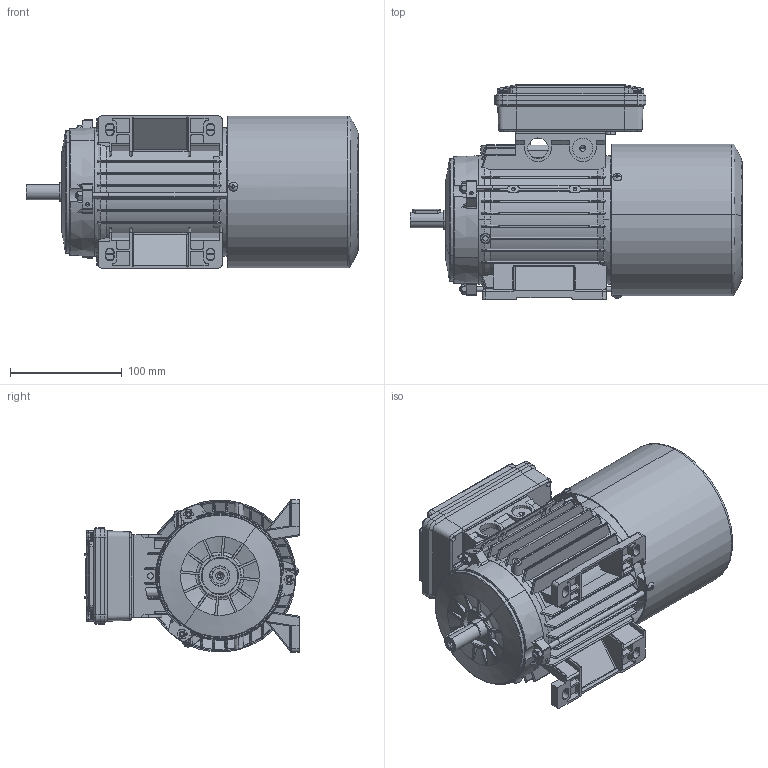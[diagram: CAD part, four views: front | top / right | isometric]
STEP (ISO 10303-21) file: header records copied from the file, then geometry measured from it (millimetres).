
FILE_DESCRIPTION (( 'STEP AP214' ), '1' );
FILE_NAME ('M14CA0011.STEP', '2018-12-07T09:04:37', ( '' ), ( '' ), 'SwSTEP 2.0', 'SolidWorks 2018', '' );
FILE_SCHEMA (( 'AUTOMOTIVE_DESIGN' ));
Length unit declared in the file: millimetre
Products named in the file (15): M14CA0011; Scudo Lato Freno P1 BM 71 NT - DBCK0207; Scudo Lato Comando B3 BA-BM 71- DBAD0094; Scatola per Morsettiera Doppia 63-71-80 - Completa; Guarnizione Scatola Singola 63-71-80; Vite per coperchio morsettiera; Coperchio per Scatola per Morsettiera Doppia 63-71-80; Scatola per Morsettiera Doppia 63-71-80; Dado M5; Vite testa rotonda M3; Tirante BM 71; Cuffia BM 71 - DBBK0097; Albero BM 71; Chiavetta 71; Carcassa 71 B3
Assembly tree (23 placements, depth 3):
  M14CA0011
    Carcassa 71 B3
    Chiavetta 71
    Albero BM 71
    Cuffia BM 71 - DBBK0097
    Tirante BM 71  x3
    Vite testa rotonda M3  x3
    Dado M5  x3
    Scatola per Morsettiera Doppia 63-71-80 - Completa
      Scatola per Morsettiera Doppia 63-71-80
      Coperchio per Scatola per Morsettiera Doppia 63-71-80
      Vite per coperchio morsettiera  x4
      Guarnizione Scatola Singola 63-71-80
    Scudo Lato Comando B3 BA-BM 71- DBAD0094
    Scudo Lato Freno P1 BM 71 NT - DBCK0207
Bounding box: 297 x 192 x 136 mm (x, y, z)
Volume: 669053.5 mm3; surface area: 513770.4 mm2
Topology: 25 solids, 25 shells, 3256 faces, 8797 edges, 5540 vertices
Faces by surface type: cylinder 1149, plane 1047, torus 385, bspline 377, cone 280, sphere 18
Entity records: 105424 total; most frequent: CARTESIAN_POINT 35309, ORIENTED_EDGE 15462, DIRECTION 13434, EDGE_CURVE 7731, AXIS2_PLACEMENT_3D 5061, VERTEX_POINT 4954, VECTOR 3312, LINE 3312
